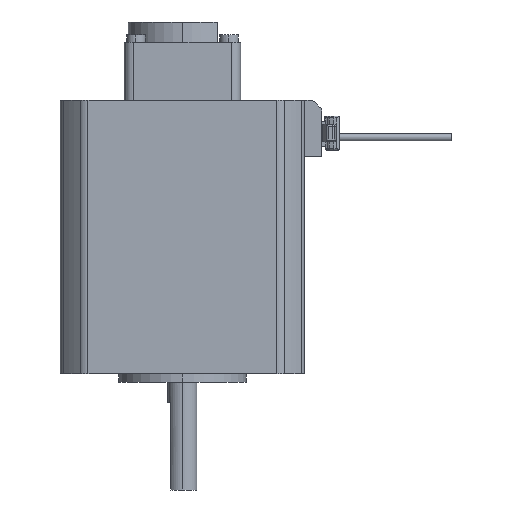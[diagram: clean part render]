
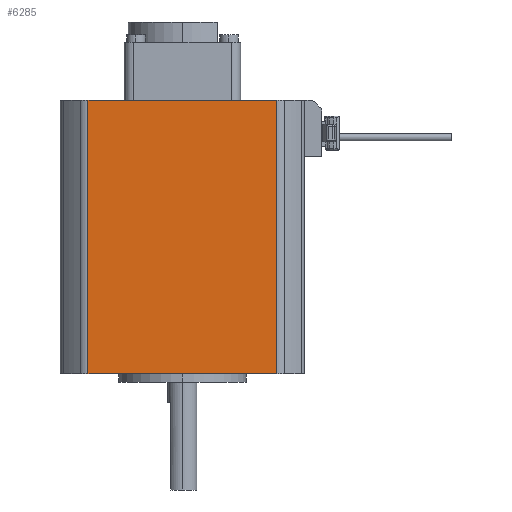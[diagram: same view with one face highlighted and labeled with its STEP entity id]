
A CAD part, left-side view. The second image highlights one B-rep face of the part: STEP entity #6285.
In plain terms, the highlighted planar face has unit normal (-1, 0, 0).
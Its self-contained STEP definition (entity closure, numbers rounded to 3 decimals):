
#313 = CARTESIAN_POINT ( 'NONE',  ( -21., -16.248, 47. ) ) ;
#558 = AXIS2_PLACEMENT_3D ( 'NONE', #1281, #3622, #8838 ) ;
#1281 = CARTESIAN_POINT ( 'NONE',  ( -21., 16.248, 47. ) ) ;
#1920 = DIRECTION ( 'NONE',  ( 0., -1., 0. ) ) ;
#2281 = EDGE_LOOP ( 'NONE', ( #13885, #7430, #7114, #10751 ) ) ;
#3146 = DIRECTION ( 'NONE',  ( 0., 0., -1. ) ) ;
#3300 = CARTESIAN_POINT ( 'NONE',  ( -21., -16.248, 0. ) ) ;
#3414 = DIRECTION ( 'NONE',  ( 0., -1., 0. ) ) ;
#3489 = VERTEX_POINT ( 'NONE', #7602 ) ;
#3622 = DIRECTION ( 'NONE',  ( 1., 0., 0. ) ) ;
#3906 = EDGE_CURVE ( 'NONE', #9984, #6010, #11826, .T. ) ;
#4065 = EDGE_CURVE ( 'NONE', #7927, #6010, #6588, .T. ) ;
#5053 = VECTOR ( 'NONE', #1920, 1000. ) ;
#5796 = CARTESIAN_POINT ( 'NONE',  ( -21., 16.248, 0. ) ) ;
#6010 = VERTEX_POINT ( 'NONE', #3300 ) ;
#6285 = ADVANCED_FACE ( 'NONE', ( #13086 ), #12020, .F. ) ;
#6588 = LINE ( 'NONE', #13167, #9415 ) ;
#6823 = EDGE_CURVE ( 'NONE', #3489, #7927, #12677, .T. ) ;
#7114 = ORIENTED_EDGE ( 'NONE', *, *, #3906, .F. ) ;
#7430 = ORIENTED_EDGE ( 'NONE', *, *, #4065, .T. ) ;
#7602 = CARTESIAN_POINT ( 'NONE',  ( -21., 16.248, 47. ) ) ;
#7927 = VERTEX_POINT ( 'NONE', #5796 ) ;
#8838 = DIRECTION ( 'NONE',  ( 0., 1., 0. ) ) ;
#9415 = VECTOR ( 'NONE', #3414, 1000. ) ;
#9984 = VERTEX_POINT ( 'NONE', #313 ) ;
#10751 = ORIENTED_EDGE ( 'NONE', *, *, #13576, .F. ) ;
#11466 = VECTOR ( 'NONE', #3146, 1000. ) ;
#11606 = LINE ( 'NONE', #12529, #5053 ) ;
#11826 = LINE ( 'NONE', #11907, #11466 ) ;
#11907 = CARTESIAN_POINT ( 'NONE',  ( -21., -16.248, 47. ) ) ;
#12020 = PLANE ( 'NONE',  #558 ) ;
#12529 = CARTESIAN_POINT ( 'NONE',  ( -21., 16.248, 47. ) ) ;
#12624 = DIRECTION ( 'NONE',  ( 0., 0., -1. ) ) ;
#12677 = LINE ( 'NONE', #13760, #13215 ) ;
#13086 = FACE_OUTER_BOUND ( 'NONE', #2281, .T. ) ;
#13167 = CARTESIAN_POINT ( 'NONE',  ( -21., 16.248, 0. ) ) ;
#13215 = VECTOR ( 'NONE', #12624, 1000. ) ;
#13576 = EDGE_CURVE ( 'NONE', #3489, #9984, #11606, .T. ) ;
#13760 = CARTESIAN_POINT ( 'NONE',  ( -21., 16.248, 47. ) ) ;
#13885 = ORIENTED_EDGE ( 'NONE', *, *, #6823, .T. ) ;
